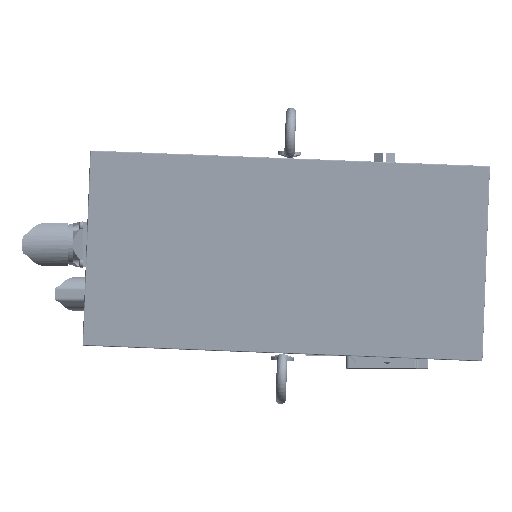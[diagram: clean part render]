
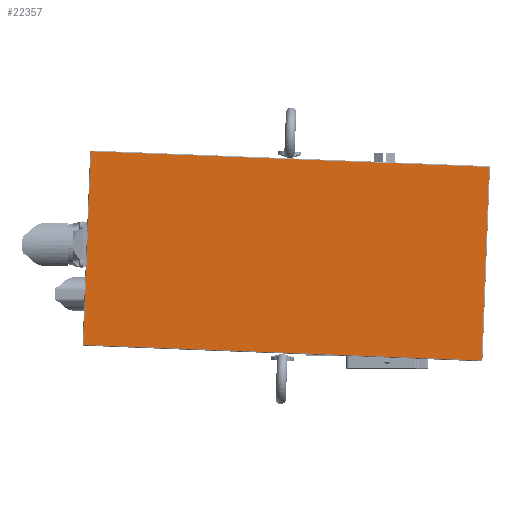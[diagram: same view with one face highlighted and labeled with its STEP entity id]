
A CAD part, top view. The second image highlights one B-rep face of the part: STEP entity #22357.
In plain terms, the highlighted planar face has unit normal (0, 0, 1).
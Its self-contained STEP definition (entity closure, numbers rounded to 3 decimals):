
#22318=CARTESIAN_POINT('',(-57.501,64.806,416.601));
#22319=DIRECTION('',(0.039,0.999,0.));
#22320=DIRECTION('',(0.,0.,1.));
#22321=AXIS2_PLACEMENT_3D('',#22318,#22320,#22319);
#22322=PLANE('',#22321);
#22323=CARTESIAN_POINT('',(-183.675,-51.832,416.601));
#22324=VERTEX_POINT('',#22323);
#22325=CARTESIAN_POINT('',(59.137,-61.368,416.601));
#22326=VERTEX_POINT('',#22325);
#22327=CARTESIAN_POINT('',(-183.675,-51.832,416.601));
#22328=DIRECTION('',(0.999,-0.039,0.));
#22329=VECTOR('',#22328,243.);
#22330=LINE('',#22327,#22329);
#22331=EDGE_CURVE('',#22324,#22326,#22330,.T.);
#22332=ORIENTED_EDGE('E4706',*,*,#22331,.T.);
#22333=CARTESIAN_POINT('',(63.768,56.541,416.601));
#22334=VERTEX_POINT('',#22333);
#22335=CARTESIAN_POINT('',(59.137,-61.368,416.601));
#22336=DIRECTION('',(0.039,0.999,0.));
#22337=VECTOR('',#22336,118.);
#22338=LINE('',#22335,#22337);
#22339=EDGE_CURVE('',#22326,#22334,#22338,.T.);
#22340=ORIENTED_EDGE('E4707',*,*,#22339,.T.);
#22341=CARTESIAN_POINT('',(-179.045,66.077,416.601));
#22342=VERTEX_POINT('',#22341);
#22343=CARTESIAN_POINT('',(63.768,56.541,416.601));
#22344=DIRECTION('',(-0.999,0.039,0.));
#22345=VECTOR('',#22344,243.);
#22346=LINE('',#22343,#22345);
#22347=EDGE_CURVE('',#22334,#22342,#22346,.T.);
#22348=ORIENTED_EDGE('E4708',*,*,#22347,.T.);
#22349=CARTESIAN_POINT('',(-179.045,66.077,416.601));
#22350=DIRECTION('',(-0.039,-0.999,0.));
#22351=VECTOR('',#22350,118.);
#22352=LINE('',#22349,#22351);
#22353=EDGE_CURVE('',#22342,#22324,#22352,.T.);
#22354=ORIENTED_EDGE('E4709',*,*,#22353,.T.);
#22355=EDGE_LOOP('',(#22332,#22340,#22348,#22354));
#22356=FACE_OUTER_BOUND('',#22355,.T.);
#22357=ADVANCED_FACE('F1819',(#22356),#22322,.T.);
